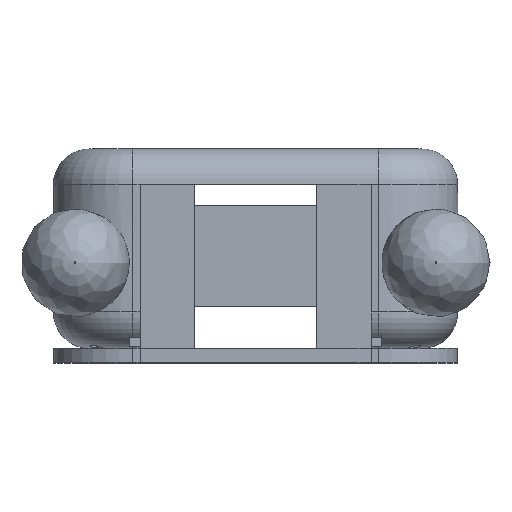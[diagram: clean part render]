
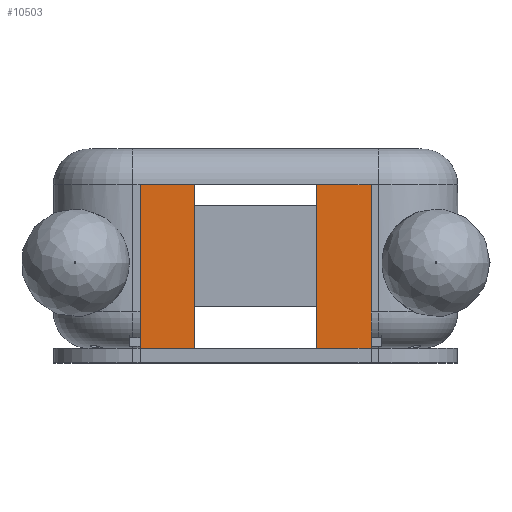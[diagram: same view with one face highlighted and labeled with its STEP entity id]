
A CAD part, top view. The second image highlights one B-rep face of the part: STEP entity #10503.
In plain terms, the highlighted planar face has unit normal (0, 0, 1).
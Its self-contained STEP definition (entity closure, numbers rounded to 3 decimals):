
#1017 = PLANE('',#1018);
#1018 = AXIS2_PLACEMENT_3D('',#1019,#1020,#1021);
#1019 = CARTESIAN_POINT('',(8.5,10.8,29.));
#1020 = DIRECTION('',(1.,0.,0.));
#1021 = DIRECTION('',(0.,-1.,0.));
#1045 = PLANE('',#1046);
#1046 = AXIS2_PLACEMENT_3D('',#1047,#1048,#1049);
#1047 = CARTESIAN_POINT('',(-50.,10.8,12.));
#1048 = DIRECTION('',(0.,-1.,0.));
#1049 = DIRECTION('',(1.,0.,0.));
#1074 = PLANE('',#1075);
#1075 = AXIS2_PLACEMENT_3D('',#1076,#1077,#1078);
#1076 = CARTESIAN_POINT('',(-8.5,10.8,29.));
#1077 = DIRECTION('',(1.,0.,0.));
#1078 = DIRECTION('',(0.,-1.,0.));
#1179 = PLANE('',#1180);
#1180 = AXIS2_PLACEMENT_3D('',#1181,#1182,#1183);
#1181 = CARTESIAN_POINT('',(0.,12.4,62.));
#1182 = DIRECTION('',(0.,-1.,0.));
#1183 = DIRECTION('',(1.,0.,0.));
#4284 = CYLINDRICAL_SURFACE('',#4285,5.);
#4285 = AXIS2_PLACEMENT_3D('',#4286,#4287,#4288);
#4286 = CARTESIAN_POINT('',(-17.,-7.8,39.));
#4287 = DIRECTION('',(1.,0.,0.));
#4288 = DIRECTION('',(0.,0.,-1.));
#4301 = VERTEX_POINT('',#4302);
#4302 = CARTESIAN_POINT('',(8.5,-12.799,38.9));
#4404 = VERTEX_POINT('',#4405);
#4405 = CARTESIAN_POINT('',(8.5,10.8,38.9));
#4426 = EDGE_CURVE('',#4404,#4301,#4427,.T.);
#4427 = SURFACE_CURVE('',#4428,(#4432,#4439),.PCURVE_S1.);
#4428 = LINE('',#4429,#4430);
#4429 = CARTESIAN_POINT('',(8.5,11.6,38.9));
#4430 = VECTOR('',#4431,1.);
#4431 = DIRECTION('',(0.,-1.,0.));
#4432 = PCURVE('',#1017,#4433);
#4433 = DEFINITIONAL_REPRESENTATION('',(#4434),#4438);
#4434 = LINE('',#4435,#4436);
#4435 = CARTESIAN_POINT('',(-0.8,-9.9));
#4436 = VECTOR('',#4437,1.);
#4437 = DIRECTION('',(1.,0.));
#4438 = ( GEOMETRIC_REPRESENTATION_CONTEXT(2) 
PARAMETRIC_REPRESENTATION_CONTEXT() REPRESENTATION_CONTEXT('2D SPACE',''
  ) );
#4439 = PCURVE('',#4440,#4445);
#4440 = PLANE('',#4441);
#4441 = AXIS2_PLACEMENT_3D('',#4442,#4443,#4444);
#4442 = CARTESIAN_POINT('',(-23.1,12.4,38.9));
#4443 = DIRECTION('',(0.,0.,1.));
#4444 = DIRECTION('',(1.,0.,-0.));
#4445 = DEFINITIONAL_REPRESENTATION('',(#4446),#4450);
#4446 = LINE('',#4447,#4448);
#4447 = CARTESIAN_POINT('',(31.6,-0.8));
#4448 = VECTOR('',#4449,1.);
#4449 = DIRECTION('',(0.,-1.));
#4450 = ( GEOMETRIC_REPRESENTATION_CONTEXT(2) 
PARAMETRIC_REPRESENTATION_CONTEXT() REPRESENTATION_CONTEXT('2D SPACE',''
  ) );
#4457 = EDGE_CURVE('',#4404,#4458,#4460,.T.);
#4458 = VERTEX_POINT('',#4459);
#4459 = CARTESIAN_POINT('',(-8.5,10.8,38.9));
#4460 = SURFACE_CURVE('',#4461,(#4465,#4472),.PCURVE_S1.);
#4461 = LINE('',#4462,#4463);
#4462 = CARTESIAN_POINT('',(16.85,10.8,38.9));
#4463 = VECTOR('',#4464,1.);
#4464 = DIRECTION('',(-1.,0.,0.));
#4465 = PCURVE('',#1045,#4466);
#4466 = DEFINITIONAL_REPRESENTATION('',(#4467),#4471);
#4467 = LINE('',#4468,#4469);
#4468 = CARTESIAN_POINT('',(66.85,26.9));
#4469 = VECTOR('',#4470,1.);
#4470 = DIRECTION('',(-1.,0.));
#4471 = ( GEOMETRIC_REPRESENTATION_CONTEXT(2) 
PARAMETRIC_REPRESENTATION_CONTEXT() REPRESENTATION_CONTEXT('2D SPACE',''
  ) );
#4472 = PCURVE('',#4440,#4473);
#4473 = DEFINITIONAL_REPRESENTATION('',(#4474),#4478);
#4474 = LINE('',#4475,#4476);
#4475 = CARTESIAN_POINT('',(39.95,-1.6));
#4476 = VECTOR('',#4477,1.);
#4477 = DIRECTION('',(-1.,0.));
#4478 = ( GEOMETRIC_REPRESENTATION_CONTEXT(2) 
PARAMETRIC_REPRESENTATION_CONTEXT() REPRESENTATION_CONTEXT('2D SPACE',''
  ) );
#4505 = VERTEX_POINT('',#4506);
#4506 = CARTESIAN_POINT('',(-8.5,-12.799,38.9));
#4523 = CYLINDRICAL_SURFACE('',#4524,5.);
#4524 = AXIS2_PLACEMENT_3D('',#4525,#4526,#4527);
#4525 = CARTESIAN_POINT('',(-17.,-7.8,39.));
#4526 = DIRECTION('',(1.,0.,0.));
#4527 = DIRECTION('',(0.,0.,-1.));
#4644 = EDGE_CURVE('',#4458,#4505,#4645,.T.);
#4645 = SURFACE_CURVE('',#4646,(#4650,#4657),.PCURVE_S1.);
#4646 = LINE('',#4647,#4648);
#4647 = CARTESIAN_POINT('',(-8.5,11.6,38.9));
#4648 = VECTOR('',#4649,1.);
#4649 = DIRECTION('',(0.,-1.,0.));
#4650 = PCURVE('',#1074,#4651);
#4651 = DEFINITIONAL_REPRESENTATION('',(#4652),#4656);
#4652 = LINE('',#4653,#4654);
#4653 = CARTESIAN_POINT('',(-0.8,-9.9));
#4654 = VECTOR('',#4655,1.);
#4655 = DIRECTION('',(1.,0.));
#4656 = ( GEOMETRIC_REPRESENTATION_CONTEXT(2) 
PARAMETRIC_REPRESENTATION_CONTEXT() REPRESENTATION_CONTEXT('2D SPACE',''
  ) );
#4657 = PCURVE('',#4440,#4658);
#4658 = DEFINITIONAL_REPRESENTATION('',(#4659),#4663);
#4659 = LINE('',#4660,#4661);
#4660 = CARTESIAN_POINT('',(14.6,-0.8));
#4661 = VECTOR('',#4662,1.);
#4662 = DIRECTION('',(0.,-1.));
#4663 = ( GEOMETRIC_REPRESENTATION_CONTEXT(2) 
PARAMETRIC_REPRESENTATION_CONTEXT() REPRESENTATION_CONTEXT('2D SPACE',''
  ) );
#4826 = EDGE_CURVE('',#4827,#4829,#4831,.T.);
#4827 = VERTEX_POINT('',#4828);
#4828 = CARTESIAN_POINT('',(-16.85,12.4,38.9));
#4829 = VERTEX_POINT('',#4830);
#4830 = CARTESIAN_POINT('',(16.85,12.4,38.9));
#4831 = SURFACE_CURVE('',#4832,(#4836,#4843),.PCURVE_S1.);
#4832 = LINE('',#4833,#4834);
#4833 = CARTESIAN_POINT('',(-23.1,12.4,38.9));
#4834 = VECTOR('',#4835,1.);
#4835 = DIRECTION('',(1.,0.,0.));
#4836 = PCURVE('',#1179,#4837);
#4837 = DEFINITIONAL_REPRESENTATION('',(#4838),#4842);
#4838 = LINE('',#4839,#4840);
#4839 = CARTESIAN_POINT('',(-23.1,-23.1));
#4840 = VECTOR('',#4841,1.);
#4841 = DIRECTION('',(1.,0.));
#4842 = ( GEOMETRIC_REPRESENTATION_CONTEXT(2) 
PARAMETRIC_REPRESENTATION_CONTEXT() REPRESENTATION_CONTEXT('2D SPACE',''
  ) );
#4843 = PCURVE('',#4440,#4844);
#4844 = DEFINITIONAL_REPRESENTATION('',(#4845),#4849);
#4845 = LINE('',#4846,#4847);
#4846 = CARTESIAN_POINT('',(0.,0.));
#4847 = VECTOR('',#4848,1.);
#4848 = DIRECTION('',(1.,0.));
#4849 = ( GEOMETRIC_REPRESENTATION_CONTEXT(2) 
PARAMETRIC_REPRESENTATION_CONTEXT() REPRESENTATION_CONTEXT('2D SPACE',''
  ) );
#4868 = CYLINDRICAL_SURFACE('',#4869,6.25);
#4869 = AXIS2_PLACEMENT_3D('',#4870,#4871,#4872);
#4870 = CARTESIAN_POINT('',(16.85,12.4,45.15));
#4871 = DIRECTION('',(0.,-1.,0.));
#4872 = DIRECTION('',(0.,0.,-1.));
#5041 = CYLINDRICAL_SURFACE('',#5042,6.25);
#5042 = AXIS2_PLACEMENT_3D('',#5043,#5044,#5045);
#5043 = CARTESIAN_POINT('',(-16.85,12.4,45.15));
#5044 = DIRECTION('',(0.,-1.,0.));
#5045 = DIRECTION('',(0.,0.,-1.));
#9603 = VERTEX_POINT('',#9604);
#9604 = CARTESIAN_POINT('',(16.85,-12.799,38.9));
#9640 = EDGE_CURVE('',#4301,#9603,#9641,.T.);
#9641 = SURFACE_CURVE('',#9642,(#9646,#9652),.PCURVE_S1.);
#9642 = LINE('',#9643,#9644);
#9643 = CARTESIAN_POINT('',(-17.,-12.799,38.9));
#9644 = VECTOR('',#9645,1.);
#9645 = DIRECTION('',(1.,0.,0.));
#9646 = PCURVE('',#4284,#9647);
#9647 = DEFINITIONAL_REPRESENTATION('',(#9648),#9651);
#9648 = B_SPLINE_CURVE_WITH_KNOTS('',1,(#9649,#9650),.UNSPECIFIED.,.F.,
  .F.,(2,2),(25.5,34.),.PIECEWISE_BEZIER_KNOTS.);
#9649 = CARTESIAN_POINT('',(4.732,25.5));
#9650 = CARTESIAN_POINT('',(4.732,34.));
#9651 = ( GEOMETRIC_REPRESENTATION_CONTEXT(2) 
PARAMETRIC_REPRESENTATION_CONTEXT() REPRESENTATION_CONTEXT('2D SPACE',''
  ) );
#9652 = PCURVE('',#4440,#9653);
#9653 = DEFINITIONAL_REPRESENTATION('',(#9654),#9658);
#9654 = LINE('',#9655,#9656);
#9655 = CARTESIAN_POINT('',(6.1,-25.199));
#9656 = VECTOR('',#9657,1.);
#9657 = DIRECTION('',(1.,0.));
#9658 = ( GEOMETRIC_REPRESENTATION_CONTEXT(2) 
PARAMETRIC_REPRESENTATION_CONTEXT() REPRESENTATION_CONTEXT('2D SPACE',''
  ) );
#10503 = ADVANCED_FACE('',(#10504),#4440,.T.);
#10504 = FACE_BOUND('',#10505,.T.);
#10505 = EDGE_LOOP('',(#10506,#10507,#10530,#10550,#10551,#10552,#10553,
    #10554));
#10506 = ORIENTED_EDGE('',*,*,#4826,.F.);
#10507 = ORIENTED_EDGE('',*,*,#10508,.T.);
#10508 = EDGE_CURVE('',#4827,#10509,#10511,.T.);
#10509 = VERTEX_POINT('',#10510);
#10510 = CARTESIAN_POINT('',(-16.85,-12.799,38.9));
#10511 = SURFACE_CURVE('',#10512,(#10516,#10523),.PCURVE_S1.);
#10512 = LINE('',#10513,#10514);
#10513 = CARTESIAN_POINT('',(-16.85,12.4,38.9));
#10514 = VECTOR('',#10515,1.);
#10515 = DIRECTION('',(0.,-1.,0.));
#10516 = PCURVE('',#4440,#10517);
#10517 = DEFINITIONAL_REPRESENTATION('',(#10518),#10522);
#10518 = LINE('',#10519,#10520);
#10519 = CARTESIAN_POINT('',(6.25,0.));
#10520 = VECTOR('',#10521,1.);
#10521 = DIRECTION('',(0.,-1.));
#10522 = ( GEOMETRIC_REPRESENTATION_CONTEXT(2) 
PARAMETRIC_REPRESENTATION_CONTEXT() REPRESENTATION_CONTEXT('2D SPACE',''
  ) );
#10523 = PCURVE('',#5041,#10524);
#10524 = DEFINITIONAL_REPRESENTATION('',(#10525),#10529);
#10525 = LINE('',#10526,#10527);
#10526 = CARTESIAN_POINT('',(6.283,0.));
#10527 = VECTOR('',#10528,1.);
#10528 = DIRECTION('',(-0.,1.));
#10529 = ( GEOMETRIC_REPRESENTATION_CONTEXT(2) 
PARAMETRIC_REPRESENTATION_CONTEXT() REPRESENTATION_CONTEXT('2D SPACE',''
  ) );
#10530 = ORIENTED_EDGE('',*,*,#10531,.T.);
#10531 = EDGE_CURVE('',#10509,#4505,#10532,.T.);
#10532 = SURFACE_CURVE('',#10533,(#10537,#10544),.PCURVE_S1.);
#10533 = LINE('',#10534,#10535);
#10534 = CARTESIAN_POINT('',(-17.,-12.799,38.9));
#10535 = VECTOR('',#10536,1.);
#10536 = DIRECTION('',(1.,0.,0.));
#10537 = PCURVE('',#4440,#10538);
#10538 = DEFINITIONAL_REPRESENTATION('',(#10539),#10543);
#10539 = LINE('',#10540,#10541);
#10540 = CARTESIAN_POINT('',(6.1,-25.199));
#10541 = VECTOR('',#10542,1.);
#10542 = DIRECTION('',(1.,0.));
#10543 = ( GEOMETRIC_REPRESENTATION_CONTEXT(2) 
PARAMETRIC_REPRESENTATION_CONTEXT() REPRESENTATION_CONTEXT('2D SPACE',''
  ) );
#10544 = PCURVE('',#4523,#10545);
#10545 = DEFINITIONAL_REPRESENTATION('',(#10546),#10549);
#10546 = B_SPLINE_CURVE_WITH_KNOTS('',1,(#10547,#10548),.UNSPECIFIED.,
  .F.,.F.,(2,2),(0.,8.5),
  .PIECEWISE_BEZIER_KNOTS.);
#10547 = CARTESIAN_POINT('',(4.732,0.));
#10548 = CARTESIAN_POINT('',(4.732,8.5));
#10549 = ( GEOMETRIC_REPRESENTATION_CONTEXT(2) 
PARAMETRIC_REPRESENTATION_CONTEXT() REPRESENTATION_CONTEXT('2D SPACE',''
  ) );
#10550 = ORIENTED_EDGE('',*,*,#4644,.F.);
#10551 = ORIENTED_EDGE('',*,*,#4457,.F.);
#10552 = ORIENTED_EDGE('',*,*,#4426,.T.);
#10553 = ORIENTED_EDGE('',*,*,#9640,.T.);
#10554 = ORIENTED_EDGE('',*,*,#10555,.T.);
#10555 = EDGE_CURVE('',#9603,#4829,#10556,.T.);
#10556 = SURFACE_CURVE('',#10557,(#10561,#10568),.PCURVE_S1.);
#10557 = LINE('',#10558,#10559);
#10558 = CARTESIAN_POINT('',(16.85,-12.799,38.9));
#10559 = VECTOR('',#10560,1.);
#10560 = DIRECTION('',(0.,1.,0.));
#10561 = PCURVE('',#4440,#10562);
#10562 = DEFINITIONAL_REPRESENTATION('',(#10563),#10567);
#10563 = LINE('',#10564,#10565);
#10564 = CARTESIAN_POINT('',(39.95,-25.199));
#10565 = VECTOR('',#10566,1.);
#10566 = DIRECTION('',(0.,1.));
#10567 = ( GEOMETRIC_REPRESENTATION_CONTEXT(2) 
PARAMETRIC_REPRESENTATION_CONTEXT() REPRESENTATION_CONTEXT('2D SPACE',''
  ) );
#10568 = PCURVE('',#4868,#10569);
#10569 = DEFINITIONAL_REPRESENTATION('',(#10570),#10574);
#10570 = LINE('',#10571,#10572);
#10571 = CARTESIAN_POINT('',(0.,25.199));
#10572 = VECTOR('',#10573,1.);
#10573 = DIRECTION('',(-0.,-1.));
#10574 = ( GEOMETRIC_REPRESENTATION_CONTEXT(2) 
PARAMETRIC_REPRESENTATION_CONTEXT() REPRESENTATION_CONTEXT('2D SPACE',''
  ) );
